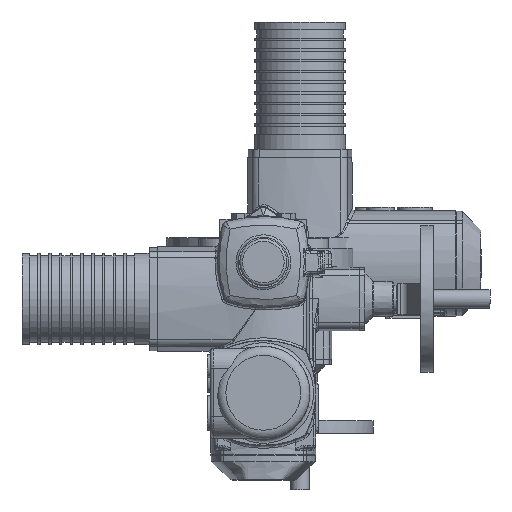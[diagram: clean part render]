
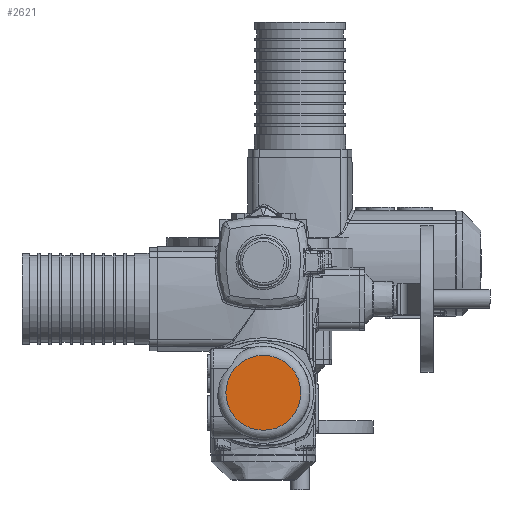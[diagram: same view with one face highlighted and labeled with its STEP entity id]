
A CAD part, top view. The second image highlights one B-rep face of the part: STEP entity #2621.
In plain terms, the highlighted planar face has unit normal (0, 0, 1) as drawn and (0, 0, -1) by its records, which use the part's own axes.
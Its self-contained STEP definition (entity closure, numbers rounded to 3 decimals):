
#2621 = ADVANCED_FACE( '', ( #6182 ), #6183, .F. );
#6182 = FACE_OUTER_BOUND( '', #13802, .T. );
#6183 = PLANE( '', #13803 );
#13802 = EDGE_LOOP( '', ( #26179 ) );
#13803 = AXIS2_PLACEMENT_3D( '', #26180, #26181, #26182 );
#26179 = ORIENTED_EDGE( '', *, *, #36438, .T. );
#26180 = CARTESIAN_POINT( '', ( 143., 0., -209. ) );
#26181 = DIRECTION( '', ( 0., 0., 1. ) );
#26182 = DIRECTION( '', ( 1., 0., 0. ) );
#36438 = EDGE_CURVE( '', #42257, #42257, #42258, .F. );
#42257 = VERTEX_POINT( '', #55617 );
#42258 = CIRCLE( '', #55618, 41. );
#55617 = CARTESIAN_POINT( '', ( 184., 0., -209. ) );
#55618 = AXIS2_PLACEMENT_3D( '', #71237, #71238, #71239 );
#71237 = CARTESIAN_POINT( '', ( 143., 0., -209. ) );
#71238 = DIRECTION( '', ( 0., 0., 1. ) );
#71239 = DIRECTION( '', ( 1., 0., 0. ) );
